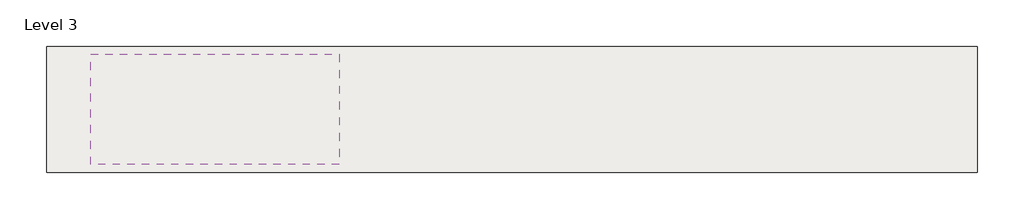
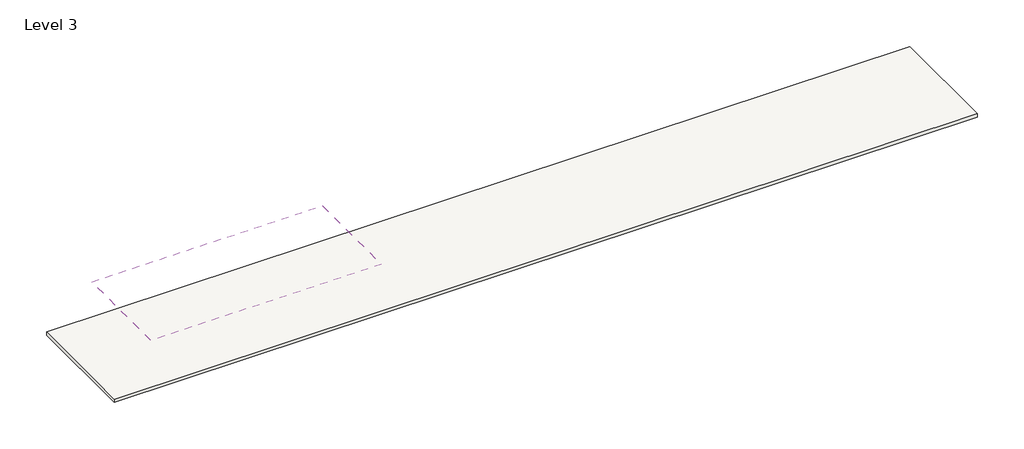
# One storey: 2 coverings, 1 slab.
"""IFC4 building model written with IfcOpenShell, lengths in millimetres."""

import ifcopenshell
import ifcopenshell.guid

model = None  # the IFC model being written
_history = None  # IfcOwnerHistory: only IFC2X3 demands one
_inside = {}  # id of a spatial element -> (the spatial element, [elements in it])
_under = {}  # id of a project, library or spatial element -> (it, [spatial elements below it])
_declared = {}  # id of a project -> (the project, [libraries it declares])
_typed = {}  # id of a type object -> (the type object, [elements of that type])
_made_of = {}  # id of a material, layer set ... -> (it, [elements and type objects made of it])


def new_model(schema):
    """Start an empty IFC model of exactly this schema.

    Asked for "IFC4X3", IfcOpenShell would pick the latest addendum, in which some entities
    have other attributes; the version numbers below select the first issue.
    IFC2X3 requires an IfcOwnerHistory on every rooted entity: one is made here for all.
    """
    global model, _history
    if schema == "IFC4X3":
        model = ifcopenshell.file(schema_version=(4, 3, 0, 0))
    else:
        model = ifcopenshell.file(schema=schema)
    _inside.clear()
    _under.clear()
    _declared.clear()
    _typed.clear()
    _made_of.clear()
    _history = None
    if model.schema == "IFC2X3":
        org = make("IfcOrganization", Name="unknown")
        user = make(
            "IfcPersonAndOrganization",
            ThePerson=make("IfcPerson", FamilyName="unknown"),
            TheOrganization=org,
        )
        app = make(
            "IfcApplication",
            ApplicationDeveloper=org,
            Version="unknown",
            ApplicationFullName="unknown",
            ApplicationIdentifier="unknown",
        )
        _history = make(
            "IfcOwnerHistory",
            OwningUser=user,
            OwningApplication=app,
            ChangeAction="ADDED",
            CreationDate=0,
        )
    return model


def make(cls, **values):
    """One entity of the class cls with the attributes given. An attribute that is None is left unset."""
    return model.create_entity(
        cls, **{name: value for name, value in values.items() if value is not None}
    )


def rooted(cls, **values):
    """An entity with a GlobalId (a new one), such as an element, a storey or a relation."""
    return make(cls, GlobalId=ifcopenshell.guid.new(), OwnerHistory=_history, **values)


def si_unit(unit_type, name, prefix=None):
    """IfcSIUnit, for example si_unit("LENGTHUNIT", "METRE", prefix="MILLI")."""
    return make("IfcSIUnit", UnitType=unit_type, Prefix=prefix, Name=name)


def assignment(units):
    """IfcUnitAssignment: the units of a project."""
    return None if units is None else make("IfcUnitAssignment", Units=units)


def point(xyz):
    """IfcCartesianPoint."""
    return None if xyz is None else make("IfcCartesianPoint", Coordinates=xyz)


def direction(xyz):
    """IfcDirection."""
    return None if xyz is None else make("IfcDirection", DirectionRatios=xyz)


def frame(location, z_axis=None, x_axis=None):
    """IfcAxis2Placement3D, a coordinate frame: its origin and axes. An axis left out is left unset."""
    return make(
        "IfcAxis2Placement3D",
        Location=point(location),
        Axis=direction(z_axis),
        RefDirection=direction(x_axis),
    )


def origin():
    """The frame at (0, 0, 0) with its axes left unset."""
    return frame((0.0, 0.0, 0.0))


def place(relative_to, where):
    """IfcLocalPlacement: puts the frame where relative to a parent placement (None: the world)."""
    return make(
        "IfcLocalPlacement", PlacementRelTo=relative_to, RelativePlacement=where
    )


def context(
    kind, dimensions, precision=None, world=None, true_north=None, identifier=None
):
    """IfcGeometricRepresentationContext, for example the 3D "Model" context."""
    return make(
        "IfcGeometricRepresentationContext",
        ContextIdentifier=identifier,
        ContextType=kind,
        CoordinateSpaceDimension=dimensions,
        Precision=precision,
        WorldCoordinateSystem=world,
        TrueNorth=true_north,
    )


def project(units=None, contexts=None):
    """IfcProject with its units and contexts."""
    return rooted(
        "IfcProject",
        Name="project",
        RepresentationContexts=contexts,
        UnitsInContext=assignment(units),
    )


def spatial(cls, under=None, at=None, **own):
    """A site, building, storey or space (cls), placed at a placement, below another one or the project."""
    s = rooted(cls, ObjectPlacement=at, **own)
    if under is not None:
        _under.setdefault(under.id(), (under, []))[1].append(s)
    return s


def polyline(points):
    """IfcPolyline through the points."""
    return make("IfcPolyline", Points=[point(p) for p in points])


def outline(outer, holes=None, kind="AREA"):
    """IfcArbitraryClosedProfileDef: a profile drawn as a closed curve; with holes, ...WithVoids."""
    if holes is None:
        return make("IfcArbitraryClosedProfileDef", ProfileType=kind, OuterCurve=outer)
    return make(
        "IfcArbitraryProfileDefWithVoids",
        ProfileType=kind,
        OuterCurve=outer,
        InnerCurves=holes,
    )


def extrude(swept, where, along, depth):
    """IfcExtrudedAreaSolid: the profile swept, set in the frame where, extruded along a direction by depth."""
    return make(
        "IfcExtrudedAreaSolid",
        SweptArea=swept,
        Position=where,
        ExtrudedDirection=direction(along),
        Depth=depth,
    )


def shape(context_of_items, identifier, shape_type, items):
    """IfcShapeRepresentation: the items that make up one representation, for example the "Body"."""
    return make(
        "IfcShapeRepresentation",
        ContextOfItems=context_of_items,
        RepresentationIdentifier=identifier,
        RepresentationType=shape_type,
        Items=items,
    )


def made_of(thing, what):
    """Note that an element or type object is made of a material, layer set ...; save() writes the relation."""
    if what is not None:
        _made_of.setdefault(what.id(), (what, []))[1].append(thing)
    return thing


def element(
    cls,
    number,
    at=None,
    inside=None,
    cuts=None,
    type_object=None,
    material=None,
    context=None,
    identifier="Body",
    shape_type=None,
    held_by="IfcProductDefinitionShape",
    body=None,
    shapes=None,
    **own,
):
    """One element of the class cls, such as IfcWall. Its Tag is "e" and its number.

    at: its placement. inside: the storey or other place that contains it. cuts: it is an
    opening in that element (IfcRelVoidsElement). A single representation is given by context,
    identifier, shape_type and body (its items); several are given by shapes. held_by: the class
    of the entity that holds the representations. save() writes the other relations.
    """
    e = rooted(cls, Tag="e%d" % number, ObjectPlacement=at, **own)
    if body is not None:
        shapes = [shape(context, identifier, shape_type, body)]
    if shapes is not None:
        e.Representation = make(held_by, Representations=shapes)
    if inside is not None:
        _inside.setdefault(inside.id(), (inside, []))[1].append(e)
    if cuts is not None:
        rooted(
            "IfcRelVoidsElement", RelatingBuildingElement=cuts, RelatedOpeningElement=e
        )
    if type_object is not None:
        _typed.setdefault(type_object.id(), (type_object, []))[1].append(e)
    return made_of(e, material)


def aggregate(whole, parts):
    """IfcRelAggregates: a whole, such as a stair, and the parts it consists of."""
    return rooted("IfcRelAggregates", RelatingObject=whole, RelatedObjects=parts)


def save(model, path):
    """Write the relations noted so far, then the file.

    IfcRelAggregates (storeys below a building ...), IfcRelContainedInSpatialStructure (elements
    in a storey), IfcRelDefinesByType, IfcRelAssociatesMaterial and IfcRelDeclares: one each for
    every whole, place, type object, material and project.
    """
    for whole, parts in _under.values():
        aggregate(whole, parts)
    for where, things in _inside.values():
        rooted(
            "IfcRelContainedInSpatialStructure",
            RelatedElements=things,
            RelatingStructure=where,
        )
    for kind, things in _typed.values():
        rooted("IfcRelDefinesByType", RelatedObjects=things, RelatingType=kind)
    for what, things in _made_of.values():
        rooted("IfcRelAssociatesMaterial", RelatedObjects=things, RelatingMaterial=what)
    for by, libraries in _declared.values():
        rooted("IfcRelDeclares", RelatingContext=by, RelatedDefinitions=libraries)
    model.write(path)


model = new_model("IFC4")

# Units and contexts
model_context = context("Model", 3, world=origin())
ifc_project = project(units=[si_unit("LENGTHUNIT", "METRE", prefix="MILLI")], contexts=[model_context])

# Site, building, storey
site = spatial("IfcSite", under=ifc_project)
building = spatial("IfcBuilding", under=site)
storey = spatial("IfcBuildingStorey", under=building, Name="Level 3", Elevation=12000.0)

# Coverings
placement = place(None, origin())
element("IfcCovering", 1, ObjectType="Plain", at=placement, inside=storey, context=model_context, shape_type="SweptSolid", body=[
    extrude(outline(polyline([(-1423.387224, -347.7844268), (-1423.387224, 5812.2155732), (12426.612776, 5812.2155732), (12426.612776, -347.7844268), (-1423.387224, -347.7844268)])), frame((0.0, 0.0, 14600.0), z_axis=(0.0, 0.0, 1.0), x_axis=(1.0, 0.0, 0.0)), (0.0, 0.0, 1.0), 57.0),
])
element("IfcCovering", 2, ObjectType="Plain", at=placement, inside=storey, context=model_context, shape_type="SweptSolid", body=[
    extrude(outline(polyline([(-1423.387224, -347.7844268), (-1423.387224, 5812.2155732), (12426.612776, 5812.2155732), (12426.612776, -347.7844268), (-1423.387224, -347.7844268)])), frame((0.0, 0.0, 14600.0), z_axis=(0.0, 0.0, 1.0), x_axis=(1.0, 0.0, 0.0)), (0.0, 0.0, 1.0), 57.0),
])

# Slab
element("IfcSlab", 3, ObjectType="Floor-Upper_160mmConc-CorusComFlor51", at=placement, inside=storey, context=model_context, shape_type="SweptSolid", body=[
    extrude(outline(polyline([(48002.862776, 6252.2155732), (48002.862776, -787.7844268), (-3888.387224, -787.7844268), (-3888.387224, 6252.2155732), (48002.862776, 6252.2155732)])), frame((0.0, 0.0, 11789.0), z_axis=(0.0, 0.0, 1.0), x_axis=(1.0, 0.0, 0.0)), (0.0, 0.0, 1.0), 211.0),
])

save(model, "model.ifc")
